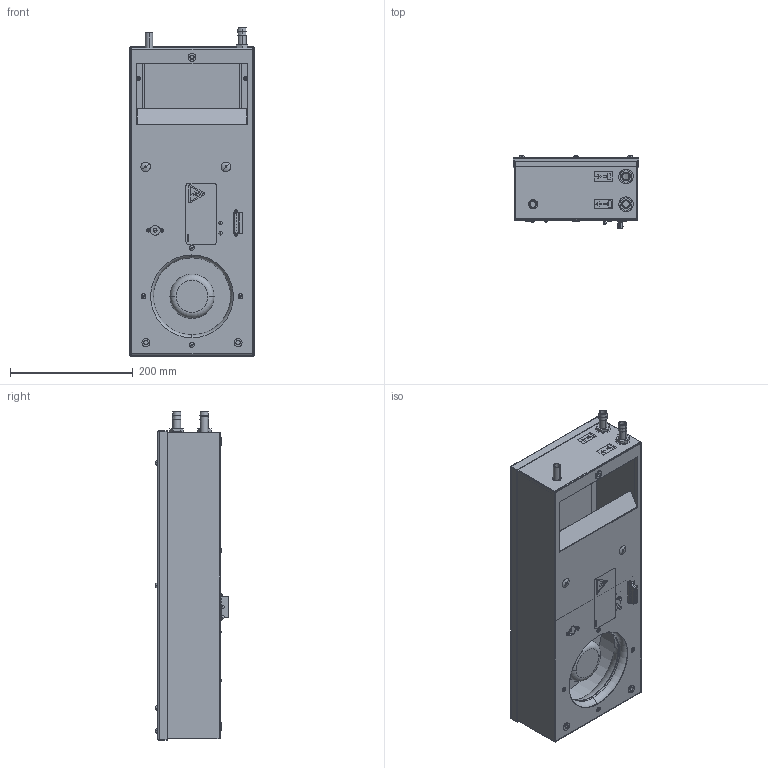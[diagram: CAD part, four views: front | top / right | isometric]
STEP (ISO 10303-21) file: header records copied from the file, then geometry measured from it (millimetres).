
FILE_DESCRIPTION (( 'STEP AP214' ), '1' );
FILE_NAME ('PWS 7062.STEP', '2018-02-15T13:09:40', ( '' ), ( '' ), 'SwSTEP 2.0', 'SolidWorks 2017', '' );
FILE_SCHEMA (( 'AUTOMOTIVE_DESIGN' ));
Length unit declared in the file: millimetre
Products named in the file (1): PWS 7062
Bounding box: 204 x 119.05 x 535 mm (x, y, z)
Surface area: 729122 mm2 (no closed solid volume)
Topology: 0 solids, 158 shells, 609 faces, 4059 edges, 3567 vertices
Faces by surface type: plane 377, cylinder 123, bspline 39, sphere 36, torus 18, cone 16
Entity records: 59415 total; most frequent: CARTESIAN_POINT 25181, ORIENTED_EDGE 4842, DIRECTION 4596, EDGE_CURVE 4049, VERTEX_POINT 3561, LINE 2290, VECTOR 2290, AXIS2_PLACEMENT_3D 1153
